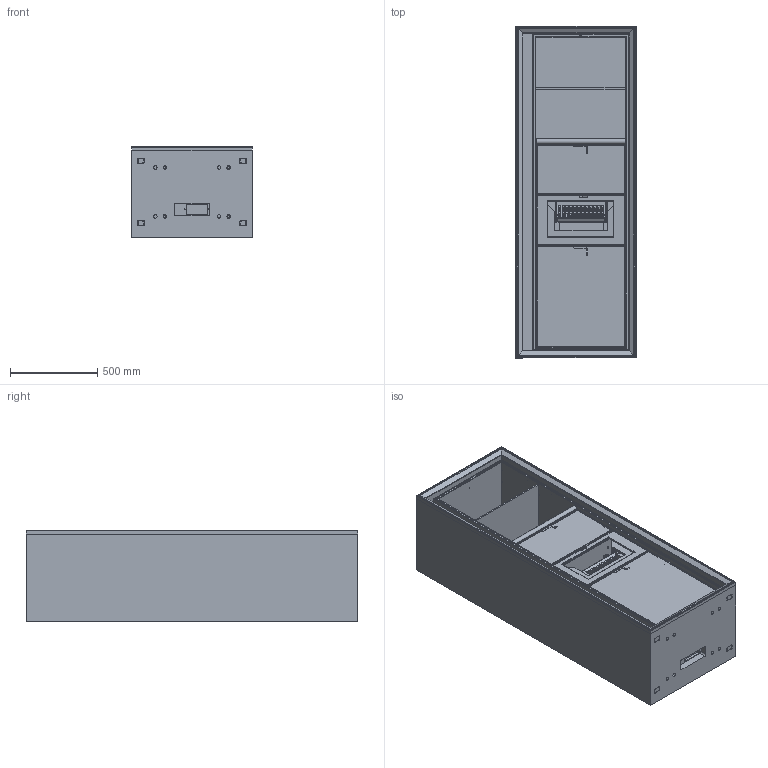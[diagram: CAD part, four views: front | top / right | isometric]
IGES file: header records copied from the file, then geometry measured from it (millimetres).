
Global section: file name: 80084; native system: Autodesk Inventor 2014; preprocessor: unknown; author: Robertom; date: 20140526.112647; units: millimetre
Bounding box: 690 x 1900 x 520 mm (x, y, z)
Volume: 233729833.2 mm3; surface area: 28713232.4 mm2
Topology: 83 solids, 83 shells, 3153 faces, 17035 edges, 14979 vertices
Faces by surface type: bspline 2265, plane 461, revolution 427
